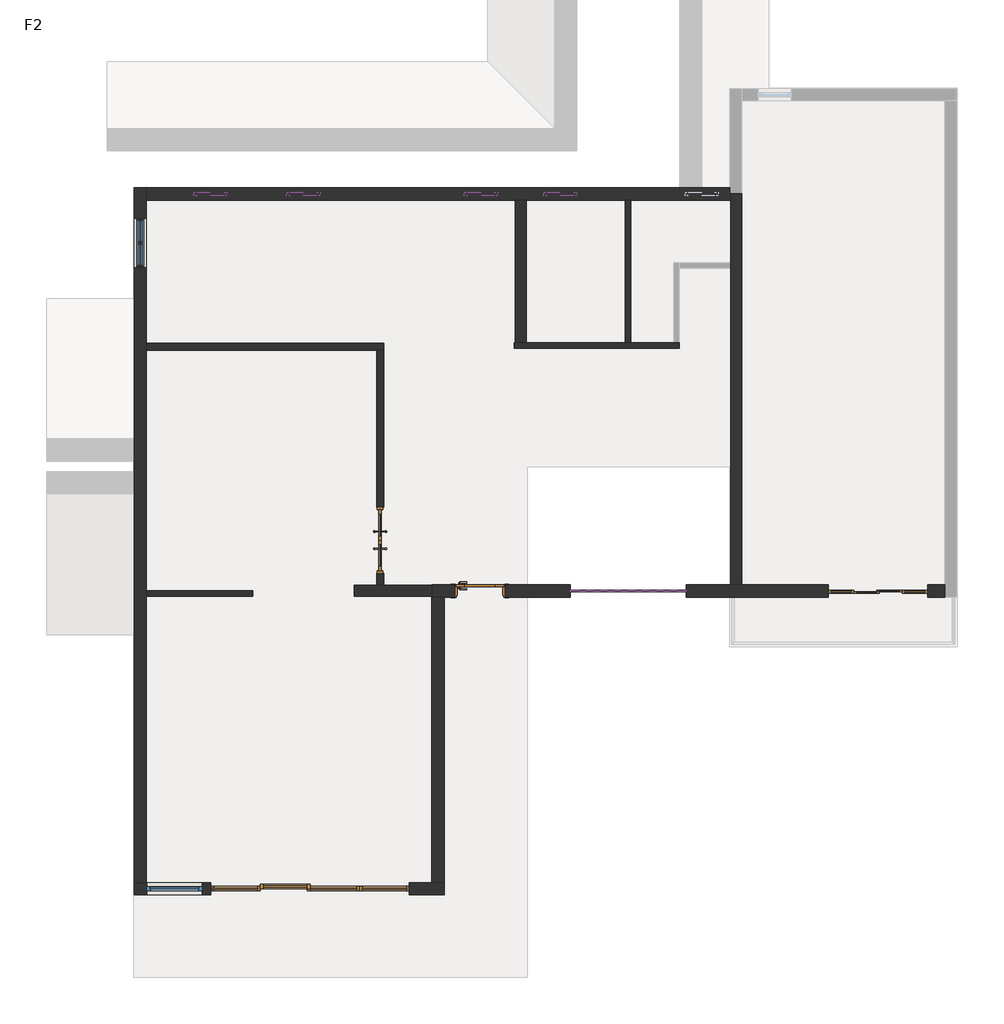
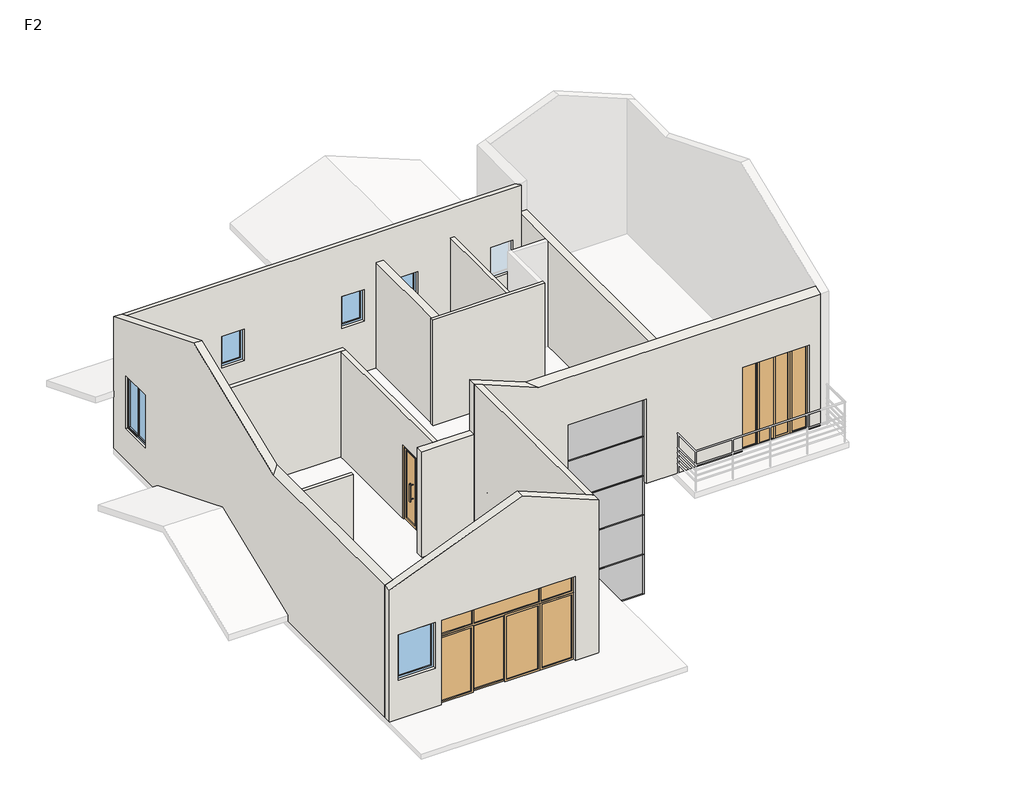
# One storey, part 1 of 2: 16 members, 13 walls, 6 windows, 5 plates, 4 doors.
"""IFC4 building model written with IfcOpenShell, lengths in millimetres."""

from ifc_helpers import new_model, si_unit, frame, origin, place, context, project, spatial, polyline, outline, extrude, faceted_brep, transform, mapped, element, save
from components import door_0924_8836e307, door_1200_x_2100mm_28484c29, ym3267_4c35834f, ym3627_ym3624_cbced519, member_36abf0b9, member_8a8b1aba, member_6a4487dd, member_cb581688, member_e9ca11cf, plate_7d49b9b0, plate_fc9b985f, c0615_c0609_9743c050, c0615_c1023_ef9932f1, c0915_c0915_c0da6e5c

model = new_model("IFC4")

# Units and contexts
model_context = context("Model", 3, world=origin())
ifc_project = project(units=[si_unit("LENGTHUNIT", "METRE", prefix="MILLI")], contexts=[model_context])

# Site, building, storey
site = spatial("IfcSite", under=ifc_project)
building = spatial("IfcBuilding", under=site)
storey = spatial("IfcBuildingStorey", under=building, Name="F2", Elevation=3300.0)

# Doors
placement = place(None, origin())
door_0924_shape = door_0924_8836e307(model_context)
element("IfcDoor", 1, ObjectType="单扇平开门-木门 : 0924", at=placement, inside=storey, context=model_context, shape_type="MappedRepresentation", body=[
    mapped(door_0924_shape, transform((-10695.9782681, -8531.0286905, 3300.0), x_axis=(1.0, 0.0, 0.0), y_axis=(0.0, 1.0, 0.0), z_axis=(0.0, 0.0, 1.0))),
])
door_1200_x_2100mm_shape = door_1200_x_2100mm_28484c29(model_context)
element("IfcDoor", 2, ObjectType="双面嵌板玻璃门 : 1200 x 2100mm", at=placement, inside=storey, context=model_context, shape_type="MappedRepresentation", body=[
    mapped(door_1200_x_2100mm_shape, transform((-12505.9782681, -7611.0286905, 3300.0), x_axis=(0.0, -1.0, 0.0), y_axis=(1.0, 0.0, 0.0), z_axis=(0.0, 0.0, 1.0))),
])
ym3267_shape = ym3267_4c35834f(model_context)
element("IfcDoor", 3, ObjectType="移门-推拉门 : YM3267", at=placement, inside=storey, context=model_context, shape_type="MappedRepresentation", body=[
    mapped(ym3267_shape, transform((-3475.9782681, -8531.0286905, 3300.0), x_axis=(-1.0, 0.0, 0.0), y_axis=(0.0, -1.0, 0.0), z_axis=(0.0, 0.0, 1.0))),
])
ym3627_ym3624_shape = ym3627_ym3624_cbced519(model_context)
element("IfcDoor", 4, ObjectType="YM3627 : YM3624", at=placement, inside=storey, context=model_context, shape_type="MappedRepresentation", body=[
    mapped(ym3627_ym3624_shape, transform((-13775.9782681, -13931.0286905, 3300.0), x_axis=(-1.0, 0.0, 0.0), y_axis=(0.0, -1.0, 0.0), z_axis=(0.0, 0.0, 1.0))),
])

# Members
member_shape = member_36abf0b9(model_context)
element("IfcMember", 5, ObjectType="矩形竖梃 : 30mm 正方形", at=placement, inside=storey, context=model_context, shape_type="MappedRepresentation", body=[
    mapped(member_shape, transform((-6985.9782681, -8531.0286905, 1235.0), x_axis=(0.0, 0.0, 1.0), y_axis=(0.0, -1.0, 0.0), z_axis=(1.0, 0.0, 0.0))),
])
element("IfcMember", 6, ObjectType="矩形竖梃 : 30mm 正方形", at=placement, inside=storey, context=model_context, shape_type="MappedRepresentation", body=[
    mapped(member_shape, transform((-6985.9782681, -8531.0286905, 2355.0), x_axis=(0.0, 0.0, 1.0), y_axis=(0.0, -1.0, 0.0), z_axis=(1.0, 0.0, 0.0))),
])
element("IfcMember", 7, ObjectType="矩形竖梃 : 30mm 正方形", at=placement, inside=storey, context=model_context, shape_type="MappedRepresentation", body=[
    mapped(member_shape, transform((-6985.9782681, -8531.0286905, 3475.0), x_axis=(0.0, 0.0, 1.0), y_axis=(0.0, -1.0, 0.0), z_axis=(1.0, 0.0, 0.0))),
])
element("IfcMember", 8, ObjectType="矩形竖梃 : 30mm 正方形", at=placement, inside=storey, context=model_context, shape_type="MappedRepresentation", body=[
    mapped(member_shape, transform((-6985.9782681, -8531.0286905, 4595.0), x_axis=(0.0, 0.0, 1.0), y_axis=(0.0, -1.0, 0.0), z_axis=(1.0, 0.0, 0.0))),
])
member_2_shape = member_8a8b1aba(model_context)
element("IfcMember", 9, ObjectType="矩形竖梃 : 30mm 正方形", at=placement, inside=storey, context=model_context, shape_type="MappedRepresentation", body=[
    mapped(member_2_shape, transform((-6985.9782681, -8531.0286905, 5700.0), x_axis=(0.0, 0.0, 1.0), y_axis=(0.0, -1.0, 0.0), z_axis=(1.0, 0.0, 0.0))),
])
element("IfcMember", 10, ObjectType="矩形竖梃 : 30mm 正方形", at=placement, inside=storey, context=model_context, shape_type="MappedRepresentation", body=[
    mapped(member_2_shape, transform((-9025.9782681, -8531.0286905, 100.0), x_axis=(0.0, 0.0, -1.0), y_axis=(0.0, -1.0, 0.0), z_axis=(-1.0, 0.0, 0.0))),
])
member_3_shape = member_6a4487dd(model_context)
element("IfcMember", 11, ObjectType="矩形竖梃 : 30mm 正方形", at=placement, inside=storey, context=model_context, shape_type="MappedRepresentation", body=[
    mapped(member_3_shape, transform((-6955.9782681, -8531.0286905, 100.0), x_axis=(1.0, 0.0, 0.0), y_axis=(0.0, -1.0, 0.0), z_axis=(0.0, 0.0, -1.0))),
])
member_4_shape = member_cb581688(model_context)
element("IfcMember", 12, ObjectType="矩形竖梃 : 30mm 正方形", at=placement, inside=storey, context=model_context, shape_type="MappedRepresentation", body=[
    mapped(member_4_shape, transform((-6955.9782681, -8531.0286905, 1235.0), x_axis=(1.0, 0.0, 0.0), y_axis=(0.0, -1.0, 0.0), z_axis=(0.0, 0.0, -1.0))),
])
element("IfcMember", 13, ObjectType="矩形竖梃 : 30mm 正方形", at=placement, inside=storey, context=model_context, shape_type="MappedRepresentation", body=[
    mapped(member_4_shape, transform((-6955.9782681, -8531.0286905, 2355.0), x_axis=(1.0, 0.0, 0.0), y_axis=(0.0, -1.0, 0.0), z_axis=(0.0, 0.0, -1.0))),
])
element("IfcMember", 14, ObjectType="矩形竖梃 : 30mm 正方形", at=placement, inside=storey, context=model_context, shape_type="MappedRepresentation", body=[
    mapped(member_4_shape, transform((-6955.9782681, -8531.0286905, 3475.0), x_axis=(1.0, 0.0, 0.0), y_axis=(0.0, -1.0, 0.0), z_axis=(0.0, 0.0, -1.0))),
])
member_5_shape = member_e9ca11cf(model_context)
element("IfcMember", 15, ObjectType="矩形竖梃 : 30mm 正方形", at=placement, inside=storey, context=model_context, shape_type="MappedRepresentation", body=[
    mapped(member_5_shape, transform((-6955.9782681, -8531.0286905, 4595.0), x_axis=(1.0, 0.0, 0.0), y_axis=(0.0, -1.0, 0.0), z_axis=(0.0, 0.0, -1.0))),
])
element("IfcMember", 16, ObjectType="矩形竖梃 : 30mm 正方形", at=placement, inside=storey, context=model_context, shape_type="MappedRepresentation", body=[
    mapped(member_5_shape, transform((-9055.9782681, -8531.0286905, 5700.0), x_axis=(-1.0, 0.0, 0.0), y_axis=(0.0, -1.0, 0.0), z_axis=(0.0, 0.0, 1.0))),
])
element("IfcMember", 17, ObjectType="矩形竖梃 : 30mm 正方形", at=placement, inside=storey, context=model_context, shape_type="MappedRepresentation", body=[
    mapped(member_3_shape, transform((-9055.9782681, -8531.0286905, 1235.0), x_axis=(-1.0, 0.0, 0.0), y_axis=(0.0, -1.0, 0.0), z_axis=(0.0, 0.0, 1.0))),
])
element("IfcMember", 18, ObjectType="矩形竖梃 : 30mm 正方形", at=placement, inside=storey, context=model_context, shape_type="MappedRepresentation", body=[
    mapped(member_4_shape, transform((-9055.9782681, -8531.0286905, 2355.0), x_axis=(-1.0, 0.0, 0.0), y_axis=(0.0, -1.0, 0.0), z_axis=(0.0, 0.0, 1.0))),
])
element("IfcMember", 19, ObjectType="矩形竖梃 : 30mm 正方形", at=placement, inside=storey, context=model_context, shape_type="MappedRepresentation", body=[
    mapped(member_4_shape, transform((-9055.9782681, -8531.0286905, 3475.0), x_axis=(-1.0, 0.0, 0.0), y_axis=(0.0, -1.0, 0.0), z_axis=(0.0, 0.0, 1.0))),
])
element("IfcMember", 20, ObjectType="矩形竖梃 : 30mm 正方形", at=placement, inside=storey, context=model_context, shape_type="MappedRepresentation", body=[
    mapped(member_4_shape, transform((-9055.9782681, -8531.0286905, 4595.0), x_axis=(-1.0, 0.0, 0.0), y_axis=(0.0, -1.0, 0.0), z_axis=(0.0, 0.0, 1.0))),
])

# Plates
plate_shape = plate_7d49b9b0(model_context)
element("IfcPlate", 21, ObjectType="系统嵌板 : 玻璃", at=placement, inside=storey, context=model_context, shape_type="MappedRepresentation", body=[
    mapped(plate_shape, transform((-8005.9782681, -8531.0286905, 130.0), x_axis=(1.0, 0.0, 0.0), y_axis=(0.0, 1.0, 0.0), z_axis=(0.0, 0.0, 1.0))),
])
element("IfcPlate", 22, ObjectType="系统嵌板 : 玻璃", at=placement, inside=storey, context=model_context, shape_type="MappedRepresentation", body=[
    mapped(plate_shape, transform((-8005.9782681, -8531.0286905, 1250.0), x_axis=(1.0, 0.0, 0.0), y_axis=(0.0, 1.0, 0.0), z_axis=(0.0, 0.0, 1.0))),
])
element("IfcPlate", 23, ObjectType="系统嵌板 : 玻璃", at=placement, inside=storey, context=model_context, shape_type="MappedRepresentation", body=[
    mapped(plate_shape, transform((-8005.9782681, -8531.0286905, 2370.0), x_axis=(1.0, 0.0, 0.0), y_axis=(0.0, 1.0, 0.0), z_axis=(0.0, 0.0, 1.0))),
])
element("IfcPlate", 24, ObjectType="系统嵌板 : 玻璃", at=placement, inside=storey, context=model_context, shape_type="MappedRepresentation", body=[
    mapped(plate_shape, transform((-8005.9782681, -8531.0286905, 3490.0), x_axis=(1.0, 0.0, 0.0), y_axis=(0.0, 1.0, 0.0), z_axis=(0.0, 0.0, 1.0))),
])
plate_2_shape = plate_fc9b985f(model_context)
element("IfcPlate", 25, ObjectType="系统嵌板 : 玻璃", at=placement, inside=storey, context=model_context, shape_type="MappedRepresentation", body=[
    mapped(plate_2_shape, transform((-8005.9782681, -8531.0286905, 4610.0), x_axis=(1.0, 0.0, 0.0), y_axis=(0.0, 1.0, 0.0), z_axis=(0.0, 0.0, 1.0))),
])

# Walls
element("IfcWall", 26, ObjectType="内部 - 砌块墙 100", at=placement, inside=storey, context=model_context, shape_type="Brep", body=[
    faceted_brep([(-16745.9782681, -4163.0286905, 3300.0), (-12567.9782681, -4163.0286905, 3300.0), (-12443.9782681, -4163.0286905, 3300.0), (-12443.9782681, -4163.0286905, 6300.0), (-12567.9782681, -4163.0286905, 6300.0), (-16745.9782681, -4163.0286905, 6300.0), (-16745.9782681, -4039.0286905, 3300.0), (-16745.9782681, -4039.0286905, 6300.0), (-12443.9782681, -4039.0286905, 6300.0), (-12443.9782681, -4039.0286905, 3300.0)], [[[0, 1, 2, 3, 4, 5]], [[6, 7, 8, 9]], [[2, 1, 0, 6, 9]], [[5, 4, 3, 8, 7]], [[0, 5, 7, 6]], [[3, 2, 9, 8]]]),
])
element("IfcWall", 27, ObjectType="内部 - 砌块墙 100", at=placement, inside=storey, context=model_context, shape_type="SweptSolid", body=[
    extrude(outline(polyline([(-8431.0286905, 6300.0), (-4163.0286905, 6300.0), (-4163.0286905, 3300.0), (-7011.0286905, 3300.0), (-7011.0286905, 5400.0), (-8211.0286905, 5400.0), (-8211.0286905, 3300.0), (-8431.0286905, 3300.0), (-8431.0286905, 6300.0)])), frame((-12567.9782681, 0.0, 0.0), z_axis=(1.0, 0.0, 0.0), x_axis=(0.0, 1.0, 0.0)), (0.0, 0.0, 1.0), 124.0),
])
element("IfcWall", 28, ObjectType="常规 - 200mm", at=placement, inside=storey, context=model_context, shape_type="Brep", body=[
    faceted_brep([(-11565.9782681, -8431.0286905, 3300.0), (-12443.9782681, -8431.0286905, 3300.0), (-12567.9782681, -8431.0286905, 3300.0), (-12975.9782681, -8431.0286905, 3300.0), (-12975.9782681, -8431.0286905, 6300.0), (-12567.9782681, -8431.0286905, 6300.0), (-12443.9782681, -8431.0286905, 6300.0), (-11565.9782681, -8431.0286905, 6300.0), (-11565.9782681, -8631.0286905, 3300.0), (-11565.9782681, -8631.0286905, 6300.0), (-12975.9782681, -8631.0286905, 6300.0), (-12975.9782681, -8631.0286905, 3300.0)], [[[0, 1, 2, 3, 4, 5, 6, 7]], [[8, 9, 10, 11]], [[3, 2, 1, 0, 8, 11]], [[4, 3, 11, 10]], [[7, 6, 5, 4, 10, 9]], [[0, 7, 9, 8]]]),
])
element("IfcWall", 29, ObjectType="常规 - 100mm 砌体", at=placement, inside=storey, context=model_context, shape_type="SweptSolid", body=[
    extrude(outline(polyline([(-16745.9782681, -8531.0286905), (-14815.9782681, -8531.0286905), (-14815.9782681, -8631.0286905), (-16745.9782681, -8631.0286905), (-16745.9782681, -8531.0286905)])), frame((0.0, 0.0, 3300.0), z_axis=(0.0, 0.0, 1.0), x_axis=(1.0, 0.0, 0.0)), (0.0, 0.0, 1.0), 3000.0),
])
element("IfcWall", 30, ObjectType="常规 - 200mm", at=placement, inside=storey, context=model_context, shape_type="SweptSolid", body=[
    extrude(outline(polyline([(-10055.9782681, -4031.0286905), (-10055.9782681, -1441.0286905), (-9855.9782681, -1441.0286905), (-9855.9782681, -4031.0286905), (-10055.9782681, -4031.0286905)])), frame((0.0, 0.0, 3300.0), z_axis=(0.0, 0.0, 1.0), x_axis=(1.0, 0.0, 0.0)), (0.0, 0.0, 1.0), 3000.0),
])
element("IfcWall", 31, ObjectType="常规 - 100mm 砌体", at=placement, inside=storey, context=model_context, shape_type="Brep", body=[
    faceted_brep([(-10075.9782681, -4131.0286905, 3300.0), (-7075.9782681, -4131.0286905, 3300.0), (-7075.9782681, -4131.0286905, 6300.0), (-10075.9782681, -4131.0286905, 6300.0), (-10075.9782681, -4031.0286905, 3300.0), (-10075.9782681, -4031.0286905, 6300.0), (-10055.9782681, -4031.0286905, 6300.0), (-9855.9782681, -4031.0286905, 6300.0), (-8055.9782681, -4031.0286905, 6300.0), (-7955.9782681, -4031.0286905, 6300.0), (-7175.9782681, -4031.0286905, 6300.0), (-7075.9782681, -4031.0286905, 6300.0), (-7075.9782681, -4031.0286905, 3300.0), (-7175.9782681, -4031.0286905, 3300.0), (-7955.9782681, -4031.0286905, 3300.0), (-8055.9782681, -4031.0286905, 3300.0), (-9855.9782681, -4031.0286905, 3300.0), (-10055.9782681, -4031.0286905, 3300.0)], [[[0, 1, 2, 3]], [[4, 5, 6, 7, 8, 9, 10, 11, 12, 13, 14, 15, 16, 17]], [[1, 0, 4, 17, 16, 15, 14, 13, 12]], [[3, 2, 11, 10, 9, 8, 7, 6, 5]], [[0, 3, 5, 4]], [[2, 1, 12, 11]]]),
])
element("IfcWall", 32, ObjectType="常规 - 200mm", at=placement, inside=storey, context=model_context, shape_type="Brep", body=[
    faceted_brep([(-5945.9782681, -8421.0286905, 3300.0), (-5945.9782681, -1331.0286905, 3300.0), (-5945.9782681, -1331.0286905, 6300.0), (-5945.9782681, -8421.0286905, 6300.0), (-6145.9782681, -8421.0286905, 3300.0), (-6145.9782681, -8421.0286905, 6300.0), (-6145.9782681, -2681.0286905, 6300.0), (-6145.9782681, -2581.0286905, 6300.0), (-6145.9782681, -1331.0286905, 6300.0), (-6145.9782681, -1331.0286905, 3300.0), (-6145.9782681, -1441.0286905, 3300.0), (-6145.9782681, -2581.0286905, 3300.0), (-6145.9782681, -2681.0286905, 3300.0)], [[[0, 1, 2, 3]], [[4, 5, 6, 7, 8, 9, 10, 11, 12]], [[1, 0, 4, 12, 11, 10, 9]], [[2, 1, 9, 8]], [[3, 2, 8, 7, 6, 5]], [[0, 3, 5, 4]]]),
])
element("IfcWall", 33, ObjectType="常规 - 100mm 砌体", at=placement, inside=storey, context=model_context, shape_type="SweptSolid", body=[
    extrude(outline(polyline([(-7955.9782681, -1441.0286905), (-7955.9782681, -4031.0286905), (-8055.9782681, -4031.0286905), (-8055.9782681, -1441.0286905), (-7955.9782681, -1441.0286905)])), frame((0.0, 0.0, 3300.0), z_axis=(0.0, 0.0, 1.0), x_axis=(1.0, 0.0, 0.0)), (0.0, 0.0, 1.0), 3000.0),
])
element("IfcWall", 34, ObjectType="F2", at=placement, inside=storey, context=model_context, shape_type="Brep", body=[
    faceted_brep([(-16965.9782681, -13821.0286905, 3300.0), (-16965.9782681, -13821.0286905, 7045.3843673), (-16745.9782681, -13821.0286905, 7134.270137), (-13405.9782681, -13821.0286905, 8483.7177313), (-11565.9782681, -13821.0286905, 7740.3094757), (-11345.9782681, -13821.0286905, 7651.423706), (-11345.9782681, -13821.0286905, 3300.0), (-11565.9782681, -13821.0286905, 3300.0), (-11975.9782681, -13821.0286905, 3300.0), (-11975.9782681, -13821.0286905, 5700.0), (-15575.9782681, -13821.0286905, 5700.0), (-15575.9782681, -13821.0286905, 3300.0), (-16745.9782681, -13821.0286905, 3300.0), (-16735.9782681, -13821.0286905, 4400.0), (-15735.9782681, -13821.0286905, 4400.0), (-15735.9782681, -13821.0286905, 5700.0), (-16735.9782681, -13821.0286905, 5700.0), (-16965.9782681, -14041.0286905, 7045.3843673), (-16965.9782681, -14041.0286905, 3300.0), (-15575.9782681, -14041.0286905, 3300.0), (-15575.9782681, -14041.0286905, 5700.0), (-11975.9782681, -14041.0286905, 5700.0), (-11975.9782681, -14041.0286905, 3300.0), (-11345.9782681, -14041.0286905, 3300.0), (-11345.9782681, -14041.0286905, 7651.423706), (-13405.9782681, -14041.0286905, 8483.7177313), (-16735.9782681, -14041.0286905, 4400.0), (-16735.9782681, -14041.0286905, 5700.0), (-15735.9782681, -14041.0286905, 5700.0), (-15735.9782681, -14041.0286905, 4400.0)], [[[0, 1, 2, 3, 4, 5, 6, 7, 8, 9, 10, 11, 12], [13, 14, 15, 16]], [[17, 18, 19, 20, 21, 22, 23, 24, 25], [26, 27, 28, 29]], [[18, 0, 12, 11, 19]], [[6, 23, 22, 8, 7]], [[1, 0, 18, 17]], [[6, 5, 24, 23]], [[21, 9, 8, 22]], [[9, 21, 20, 10]], [[10, 20, 19, 11]], [[27, 26, 13, 16]], [[28, 27, 16, 15]], [[29, 28, 15, 14]], [[26, 29, 14, 13]], [[24, 5, 4, 3, 25]], [[1, 17, 25, 3, 2]]]),
])
element("IfcWall", 35, ObjectType="F2", at=placement, inside=storey, context=model_context, shape_type="Brep", body=[
    faceted_brep([(-16745.9782681, -13821.0286905, 3300.0), (-16745.9782681, -8631.0286905, 3300.0), (-16745.9782681, -8531.0286905, 3300.0), (-16745.9782681, -4163.0286905, 3300.0), (-16745.9782681, -4039.0286905, 3300.0), (-16745.9782681, -1441.0286905, 3300.0), (-16745.9782681, -1221.0286905, 3300.0), (-16745.9782681, -1221.0286905, 7045.3843673), (-16745.9782681, -1441.0286905, 7134.270137), (-16745.9782681, -4931.0286905, 8544.3216651), (-16745.9782681, -8421.0286905, 7134.270137), (-16745.9782681, -13821.0286905, 7134.270137), (-16745.9782681, -1771.0286905, 4200.0), (-16745.9782681, -2671.0286905, 4200.0), (-16745.9782681, -2671.0286905, 5700.0), (-16745.9782681, -1771.0286905, 5700.0), (-16965.9782681, -13821.0286905, 3300.0), (-16965.9782681, -13821.0286905, 7045.3843673), (-16965.9782681, -8641.0286905, 7045.3843673), (-16965.9782681, -4931.0286905, 8544.3216651), (-16965.9782681, -1221.0286905, 7045.3843673), (-16965.9782681, -1221.0286905, 3300.0), (-16965.9782681, -1771.0286905, 4200.0), (-16965.9782681, -1771.0286905, 5700.0), (-16965.9782681, -2671.0286905, 5700.0), (-16965.9782681, -2671.0286905, 4200.0)], [[[0, 1, 2, 3, 4, 5, 6, 7, 8, 9, 10, 11], [12, 13, 14, 15]], [[16, 17, 18, 19, 20, 21], [22, 23, 24, 25]], [[6, 5, 4, 3, 2, 1, 0, 16, 21]], [[0, 11, 17, 16]], [[7, 6, 21, 20]], [[23, 22, 12, 15]], [[24, 23, 15, 14]], [[25, 24, 14, 13]], [[22, 25, 13, 12]], [[11, 10, 18, 17]], [[10, 9, 19, 18]], [[9, 8, 7, 20, 19]]]),
])
element("IfcWall", 36, ObjectType="F2", at=placement, inside=storey, context=model_context, shape_type="Brep", body=[
    faceted_brep([(-16745.9782681, -1441.0286905, 3300.0), (-10055.9782681, -1441.0286905, 3300.0), (-9855.9782681, -1441.0286905, 3300.0), (-8055.9782681, -1441.0286905, 3300.0), (-7955.9782681, -1441.0286905, 3300.0), (-6145.9782681, -1441.0286905, 3300.0), (-6145.9782681, -1441.0286905, 7134.270137), (-16745.9782681, -1441.0286905, 7134.270137), (-15885.9782681, -1441.0286905, 4750.0), (-15885.9782681, -1441.0286905, 5650.0), (-15285.9782681, -1441.0286905, 5650.0), (-15285.9782681, -1441.0286905, 4750.0), (-14195.9782681, -1441.0286905, 4750.0), (-14195.9782681, -1441.0286905, 5650.0), (-13595.9782681, -1441.0286905, 5650.0), (-13595.9782681, -1441.0286905, 4750.0), (-10975.9782681, -1441.0286905, 4750.0), (-10975.9782681, -1441.0286905, 5650.0), (-10375.9782681, -1441.0286905, 5650.0), (-10375.9782681, -1441.0286905, 4750.0), (-9535.9782681, -1441.0286905, 4750.0), (-9535.9782681, -1441.0286905, 5650.0), (-8935.9782681, -1441.0286905, 5650.0), (-8935.9782681, -1441.0286905, 4750.0), (-6975.9782681, -1441.0286905, 4750.0), (-6975.9782681, -1441.0286905, 5650.0), (-6375.9782681, -1441.0286905, 5650.0), (-6375.9782681, -1441.0286905, 4750.0), (-16745.9782681, -1221.0286905, 3300.0), (-16745.9782681, -1221.0286905, 7045.3843673), (-6165.9782681, -1221.0286905, 7045.3843673), (-6165.9782681, -1221.0286905, 3300.0), (-15885.9782681, -1221.0286905, 4750.0), (-15285.9782681, -1221.0286905, 4750.0), (-15285.9782681, -1221.0286905, 5650.0), (-15885.9782681, -1221.0286905, 5650.0), (-14195.9782681, -1221.0286905, 4750.0), (-13595.9782681, -1221.0286905, 4750.0), (-13595.9782681, -1221.0286905, 5650.0), (-14195.9782681, -1221.0286905, 5650.0), (-10975.9782681, -1221.0286905, 4750.0), (-10375.9782681, -1221.0286905, 4750.0), (-10375.9782681, -1221.0286905, 5650.0), (-10975.9782681, -1221.0286905, 5650.0), (-9535.9782681, -1221.0286905, 4750.0), (-8935.9782681, -1221.0286905, 4750.0), (-8935.9782681, -1221.0286905, 5650.0), (-9535.9782681, -1221.0286905, 5650.0), (-6975.9782681, -1221.0286905, 4750.0), (-6375.9782681, -1221.0286905, 4750.0), (-6375.9782681, -1221.0286905, 5650.0), (-6975.9782681, -1221.0286905, 5650.0), (-6165.9782681, -1331.0286905, 3300.0), (-6145.9782681, -1331.0286905, 3300.0), (-6145.9782681, -1331.0286905, 6300.0), (-6145.9782681, -1331.0286905, 7089.8272521), (-6165.9782681, -1331.0286905, 7089.8272521)], [[[0, 1, 2, 3, 4, 5, 6, 7], [8, 9, 10, 11], [12, 13, 14, 15], [16, 17, 18, 19], [20, 21, 22, 23], [24, 25, 26, 27]], [[28, 29, 30, 31], [32, 33, 34, 35], [36, 37, 38, 39], [40, 41, 42, 43], [44, 45, 46, 47], [48, 49, 50, 51]], [[5, 4, 3, 2, 1, 0, 28, 31, 52, 53]], [[0, 7, 29, 28]], [[6, 5, 53, 54, 55]], [[53, 52, 56, 55, 54]], [[52, 31, 30, 56]], [[9, 8, 32, 35]], [[10, 9, 35, 34]], [[11, 10, 34, 33]], [[8, 11, 33, 32]], [[13, 12, 36, 39]], [[14, 13, 39, 38]], [[15, 14, 38, 37]], [[12, 15, 37, 36]], [[17, 16, 40, 43]], [[18, 17, 43, 42]], [[19, 18, 42, 41]], [[16, 19, 41, 40]], [[21, 20, 44, 47]], [[22, 21, 47, 46]], [[23, 22, 46, 45]], [[20, 23, 45, 44]], [[25, 24, 48, 51]], [[26, 25, 51, 50]], [[27, 26, 50, 49]], [[24, 27, 49, 48]], [[7, 6, 55, 56, 30, 29]]]),
])
element("IfcWall", 37, ObjectType="F2", at=placement, inside=storey, context=model_context, shape_type="Brep", body=[
    faceted_brep([(-2265.9782681, -8421.0286905, 7134.270137), (-2265.9782681, -8421.0286905, 3300.0), (-2575.9782681, -8421.0286905, 3300.0), (-2575.9782681, -8421.0286905, 5700.0), (-4375.9782681, -8421.0286905, 5700.0), (-4375.9782681, -8421.0286905, 3300.0), (-5945.9782681, -8421.0286905, 3300.0), (-6145.9782681, -8421.0286905, 3300.0), (-6165.9782681, -8421.0286905, 3300.0), (-6955.9782681, -8421.0286905, 3300.0), (-6955.9782681, -8421.0286905, 5700.0), (-9055.9782681, -8421.0286905, 5700.0), (-9055.9782681, -8421.0286905, 3300.0), (-10065.9782681, -8421.0286905, 3300.0), (-10245.9782681, -8421.0286905, 3300.0), (-10245.9782681, -8421.0286905, 5700.0), (-11145.9782681, -8421.0286905, 5700.0), (-11145.9782681, -8421.0286905, 3300.0), (-11565.9782681, -8421.0286905, 3300.0), (-11565.9782681, -8421.0286905, 7740.3094757), (-10065.9782681, -8421.0286905, 7134.270137), (-2265.9782681, -8641.0286905, 3300.0), (-2265.9782681, -8641.0286905, 7045.3843673), (-9845.9782681, -8641.0286905, 7045.3843673), (-11345.9782681, -8641.0286905, 7651.423706), (-11565.9782681, -8641.0286905, 7740.3094757), (-11565.9782681, -8641.0286905, 3300.0), (-11345.9782681, -8641.0286905, 3300.0), (-11145.9782681, -8641.0286905, 3300.0), (-11145.9782681, -8641.0286905, 5700.0), (-10245.9782681, -8641.0286905, 5700.0), (-10245.9782681, -8641.0286905, 3300.0), (-9055.9782681, -8641.0286905, 3300.0), (-9055.9782681, -8641.0286905, 5700.0), (-6955.9782681, -8641.0286905, 5700.0), (-6955.9782681, -8641.0286905, 3300.0), (-4375.9782681, -8641.0286905, 3300.0), (-4375.9782681, -8641.0286905, 5700.0), (-2575.9782681, -8641.0286905, 5700.0), (-2575.9782681, -8641.0286905, 3300.0), (-11565.9782681, -8431.0286905, 3300.0), (-11565.9782681, -8631.0286905, 3300.0)], [[[0, 1, 2, 3, 4, 5, 6, 7, 8, 9, 10, 11, 12, 13, 14, 15, 16, 17, 18, 19, 20]], [[21, 22, 23, 24, 25, 26, 27, 28, 29, 30, 31, 32, 33, 34, 35, 36, 37, 38, 39]], [[1, 0, 22, 21]], [[19, 18, 40, 41, 26, 25]], [[4, 37, 36, 5]], [[37, 4, 3, 38]], [[38, 3, 2, 39]], [[30, 15, 14, 31]], [[15, 30, 29, 16]], [[16, 29, 28, 17]], [[2, 1, 21, 39]], [[9, 8, 7, 6, 5, 36, 35]], [[10, 9, 35, 34]], [[11, 10, 34, 33]], [[12, 11, 33, 32]], [[26, 41, 40, 18, 17, 28, 27]], [[12, 32, 31, 14, 13]], [[22, 0, 20, 23]], [[19, 25, 24, 23, 20]]]),
])
element("IfcWall", 38, ObjectType="F2", at=placement, inside=storey, context=model_context, shape_type="SweptSolid", body=[
    extrude(outline(polyline([(7740.3094757, -11565.9782681), (3300.0, -11565.9782681), (3300.0, -11345.9782681), (7651.423706, -11345.9782681), (7740.3094757, -11565.9782681)])), frame((0.0, -13821.0286905, 0.0), z_axis=(0.0, 1.0, 0.0), x_axis=(0.0, 0.0, 1.0)), (0.0, 0.0, 1.0), 5180.0),
])

# Windows
c0615_c0609_shape = c0615_c0609_9743c050(model_context)
element("IfcWindow", 39, ObjectType="C0615 : C0609", at=placement, inside=storey, context=model_context, shape_type="MappedRepresentation", body=[
    mapped(c0615_c0609_shape, transform((-15585.9782681, -1331.0286905, 3300.0), x_axis=(1.0, 0.0, 0.0), y_axis=(0.0, 1.0, 0.0), z_axis=(0.0, 0.0, 1.0))),
])
element("IfcWindow", 40, ObjectType="C0615 : C0609", at=placement, inside=storey, context=model_context, shape_type="MappedRepresentation", body=[
    mapped(c0615_c0609_shape, transform((-13895.9782681, -1331.0286905, 3300.0), x_axis=(1.0, 0.0, 0.0), y_axis=(0.0, 1.0, 0.0), z_axis=(0.0, 0.0, 1.0))),
])
element("IfcWindow", 41, ObjectType="C0615 : C0609", at=placement, inside=storey, context=model_context, shape_type="MappedRepresentation", body=[
    mapped(c0615_c0609_shape, transform((-10675.9782681, -1331.0286905, 3300.0), x_axis=(1.0, 0.0, 0.0), y_axis=(0.0, 1.0, 0.0), z_axis=(0.0, 0.0, 1.0))),
])
element("IfcWindow", 42, ObjectType="C0615 : C0609", at=placement, inside=storey, context=model_context, shape_type="MappedRepresentation", body=[
    mapped(c0615_c0609_shape, transform((-9235.9782681, -1331.0286905, 3300.0), x_axis=(1.0, 0.0, 0.0), y_axis=(0.0, 1.0, 0.0), z_axis=(0.0, 0.0, 1.0))),
])
c0615_c1023_shape = c0615_c1023_ef9932f1(model_context)
element("IfcWindow", 43, ObjectType="C0615 : C1023", at=placement, inside=storey, context=model_context, shape_type="MappedRepresentation", body=[
    mapped(c0615_c1023_shape, transform((-16235.9782681, -13931.0286905, 2950.0), x_axis=(1.0, 0.0, 0.0), y_axis=(0.0, 1.0, 0.0), z_axis=(0.0, 0.0, 1.0))),
])
c0915_c0915_shape = c0915_c0915_c0da6e5c(model_context)
element("IfcWindow", 44, ObjectType="C0915 : C0915", at=placement, inside=storey, context=model_context, shape_type="MappedRepresentation", body=[
    mapped(c0915_c0915_shape, transform((-16855.9782681, -2221.0286905, 3300.0), x_axis=(0.0, -1.0, 0.0), y_axis=(1.0, 0.0, 0.0), z_axis=(0.0, 0.0, 1.0))),
])

save(model, "model.ifc")
